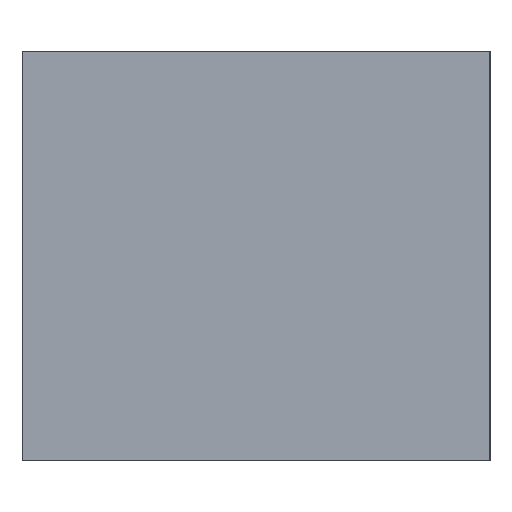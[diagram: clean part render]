
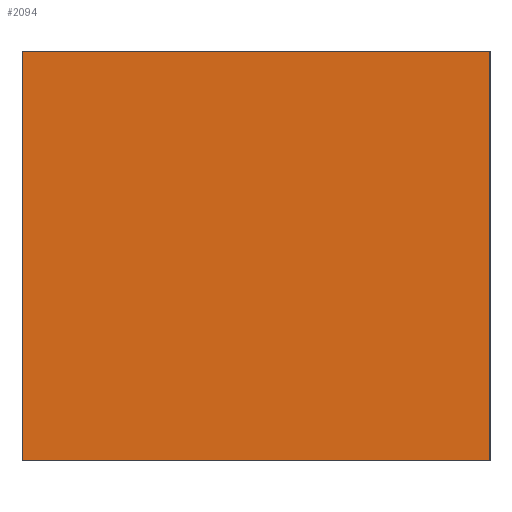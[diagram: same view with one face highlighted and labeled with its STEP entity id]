
A CAD part, left-side view. The second image highlights one B-rep face of the part: STEP entity #2094.
In plain terms, the highlighted planar face has unit normal (-1, 0, 0).
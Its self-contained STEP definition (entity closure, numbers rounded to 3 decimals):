
#23=DIRECTION('',(0.,-1.,0.));
#24=VECTOR('',#23,40.);
#25=CARTESIAN_POINT('',(-76.,40.,0.));
#26=LINE('',#25,#24);
#59=DIRECTION('',(0.,0.,1.));
#60=VECTOR('',#59,35.);
#61=CARTESIAN_POINT('',(-76.,40.,0.));
#62=LINE('',#61,#60);
#215=DIRECTION('',(0.,0.,1.));
#216=VECTOR('',#215,35.);
#217=CARTESIAN_POINT('',(-76.,0.,0.));
#218=LINE('',#217,#216);
#309=DIRECTION('',(0.,-1.,0.));
#310=VECTOR('',#309,40.);
#311=CARTESIAN_POINT('',(-76.,40.,35.));
#312=LINE('',#311,#310);
#1776=CARTESIAN_POINT('',(-76.,40.,0.));
#1777=CARTESIAN_POINT('',(-76.,0.,0.));
#1778=VERTEX_POINT('',#1776);
#1779=VERTEX_POINT('',#1777);
#1784=CARTESIAN_POINT('',(-76.,40.,35.));
#1785=CARTESIAN_POINT('',(-76.,0.,35.));
#1786=VERTEX_POINT('',#1784);
#1787=VERTEX_POINT('',#1785);
#2080=CARTESIAN_POINT('',(-76.,40.,0.));
#2081=DIRECTION('',(-1.,0.,0.));
#2082=DIRECTION('',(0.,-1.,0.));
#2083=AXIS2_PLACEMENT_3D('',#2080,#2081,#2082);
#2084=PLANE('',#2083);
#2085=ORIENTED_EDGE('',*,*,#2050,.F.);
#2087=ORIENTED_EDGE('',*,*,#2086,.T.);
#2089=ORIENTED_EDGE('',*,*,#2088,.T.);
#2091=ORIENTED_EDGE('',*,*,#2090,.F.);
#2092=EDGE_LOOP('',(#2085,#2087,#2089,#2091));
#2093=FACE_OUTER_BOUND('',#2092,.F.);
#2050=EDGE_CURVE('',#1778,#1779,#26,.T.);
#2086=EDGE_CURVE('',#1778,#1786,#62,.T.);
#2088=EDGE_CURVE('',#1786,#1787,#312,.T.);
#2090=EDGE_CURVE('',#1779,#1787,#218,.T.);
#2094=ADVANCED_FACE('',(#2093),#2084,.T.);
